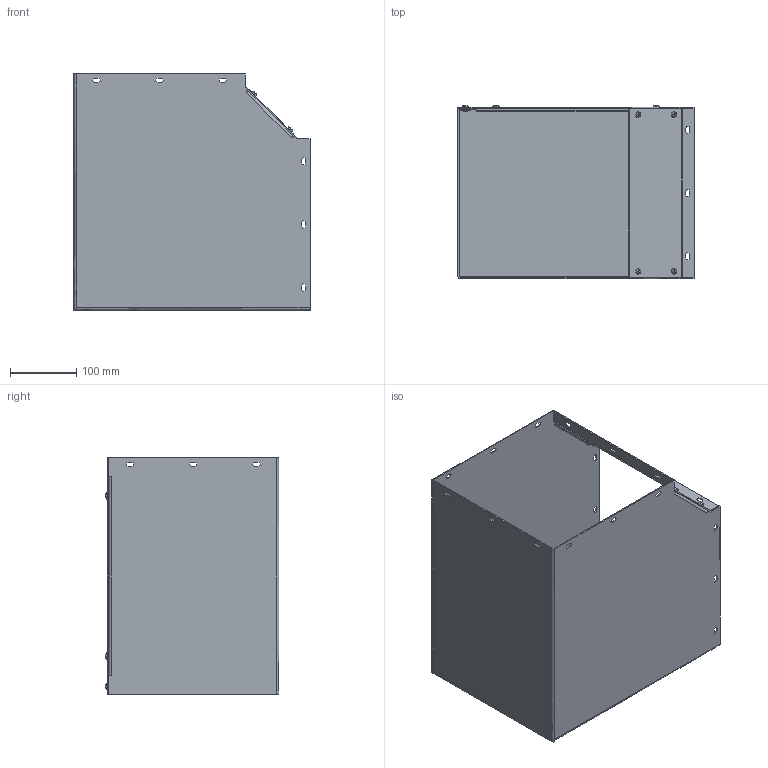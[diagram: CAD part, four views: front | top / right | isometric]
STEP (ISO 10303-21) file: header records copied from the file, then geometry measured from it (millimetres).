
FILE_DESCRIPTION((''),'2;1');
FILE_NAME('D:\scratch\ideas\assy_elbow_inside_open.stp', '2006-09-22T09:55:31',('User'),('SDRC'),'I-DEAS Master Series 9','UNIX', 'Yes');
FILE_SCHEMA(('AUTOMOTIVE_DESIGN { 1 0 10303 214 0 1 1 1 }'));
Length unit declared in the file: inch
Products named in the file (5): m/c_13141_13147; 87571156; 87571176; 87571132; 87754197
Assembly tree (11 placements, depth 2):
  m/c_13141_13147
    87571156
    87571176
    87571132
    87754197  x8
Bounding box: 355.6 x 261.59 x 355.6 mm (x, y, z)
Volume: 858590.2 mm3; surface area: 949659 mm2
Topology: 11 solids, 11 shells, 431 faces, 1083 edges, 690 vertices
Faces by surface type: bspline 431
Entity records: 9383 total; most frequent: CARTESIAN_POINT 4713, ORIENTED_EDGE 1438, EDGE_CURVE 719, VERTEX_POINT 452, EDGE_LOOP 373, QUASI_UNIFORM_CURVE 366, FACE_OUTER_BOUND 284, ADVANCED_FACE 284
